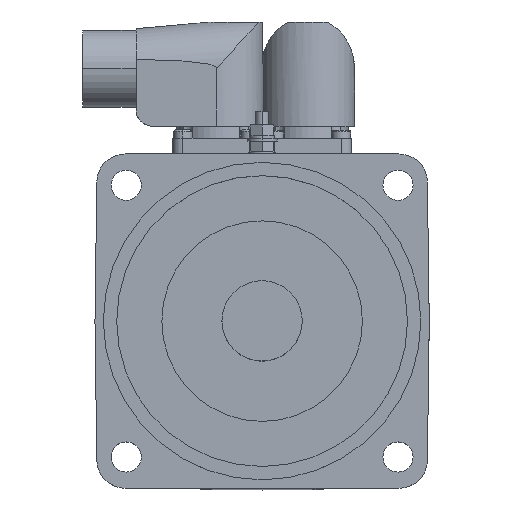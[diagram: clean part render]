
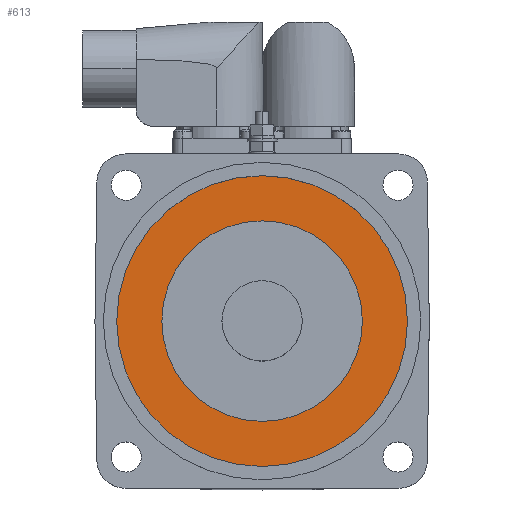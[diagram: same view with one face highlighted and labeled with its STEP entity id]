
A CAD part, top view. The second image highlights one B-rep face of the part: STEP entity #613.
In plain terms, the highlighted planar face has unit normal (0, 0, 1).
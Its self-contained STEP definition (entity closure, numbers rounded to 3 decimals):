
#208 = EDGE_CURVE ( 'NONE', #6195, #6196, #7340, .T. ) ;
#212 = EDGE_CURVE ( 'NONE', #6199, #6200, #7345, .T. ) ;
#370 = EDGE_CURVE ( 'NONE', #6200, #6199, #7593, .T. ) ;
#376 = EDGE_CURVE ( 'NONE', #6196, #6195, #7603, .T. ) ;
#613 = ADVANCED_FACE ( 'NONE', ( #8013, #8008 ), #13729, .T. ) ;
#1377 = AXIS2_PLACEMENT_3D ( 'NONE', #5942, #5943, #5944 ) ;
#1380 = AXIS2_PLACEMENT_3D ( 'NONE', #5931, #5933, #5934 ) ;
#1449 = AXIS2_PLACEMENT_3D ( 'NONE', #13314, #13322, #13323 ) ;
#1453 = AXIS2_PLACEMENT_3D ( 'NONE', #13331, #13338, #13339 ) ;
#1623 = AXIS2_PLACEMENT_3D ( 'NONE', #13721, #13730, #13731 ) ;
#2665 = EDGE_LOOP ( 'NONE', ( #2869, #2870 ) ) ;
#2670 = EDGE_LOOP ( 'NONE', ( #2871, #2872 ) ) ;
#2869 = ORIENTED_EDGE ( 'NONE', *, *, #376, .T. ) ;
#2870 = ORIENTED_EDGE ( 'NONE', *, *, #208, .T. ) ;
#2871 = ORIENTED_EDGE ( 'NONE', *, *, #212, .F. ) ;
#2872 = ORIENTED_EDGE ( 'NONE', *, *, #370, .F. ) ;
#5931 = CARTESIAN_POINT ( 'NONE',  ( 0., 0., 8. ) ) ;
#5933 = DIRECTION ( 'NONE',  ( 0., 0., 1. ) ) ;
#5934 = DIRECTION ( 'NONE',  ( 1., 0., 0. ) ) ;
#5942 = CARTESIAN_POINT ( 'NONE',  ( 0., 0., 8. ) ) ;
#5943 = DIRECTION ( 'NONE',  ( 0., 0., 1. ) ) ;
#5944 = DIRECTION ( 'NONE',  ( 1., 0., 0. ) ) ;
#6195 = VERTEX_POINT ( 'NONE', #10561 ) ;
#6196 = VERTEX_POINT ( 'NONE', #10562 ) ;
#6199 = VERTEX_POINT ( 'NONE', #10565 ) ;
#6200 = VERTEX_POINT ( 'NONE', #10566 ) ;
#7340 = CIRCLE ( 'NONE', #1380, 43.5 ) ;
#7345 = CIRCLE ( 'NONE', #1377, 30. ) ;
#7593 = CIRCLE ( 'NONE', #1449, 30. ) ;
#7603 = CIRCLE ( 'NONE', #1453, 43.5 ) ;
#8008 = FACE_BOUND ( 'NONE', #2670, .T. ) ;
#8013 = FACE_OUTER_BOUND ( 'NONE', #2665, .T. ) ;
#10561 = CARTESIAN_POINT ( 'NONE',  ( -43.5, 0., 8. ) ) ;
#10562 = CARTESIAN_POINT ( 'NONE',  ( 43.5, 0., 8. ) ) ;
#10565 = CARTESIAN_POINT ( 'NONE',  ( 30., 0., 8. ) ) ;
#10566 = CARTESIAN_POINT ( 'NONE',  ( -30., 0., 8. ) ) ;
#13314 = CARTESIAN_POINT ( 'NONE',  ( 0., 0., 8. ) ) ;
#13322 = DIRECTION ( 'NONE',  ( 0., 0., 1. ) ) ;
#13323 = DIRECTION ( 'NONE',  ( 1., 0., 0. ) ) ;
#13331 = CARTESIAN_POINT ( 'NONE',  ( 0., 0., 8. ) ) ;
#13338 = DIRECTION ( 'NONE',  ( 0., 0., 1. ) ) ;
#13339 = DIRECTION ( 'NONE',  ( 1., 0., 0. ) ) ;
#13721 = CARTESIAN_POINT ( 'NONE',  ( 0., 43.5, 8. ) ) ;
#13729 = PLANE ( 'NONE',  #1623 ) ;
#13730 = DIRECTION ( 'NONE',  ( 0., 0., 1. ) ) ;
#13731 = DIRECTION ( 'NONE',  ( 1., 0., 0. ) ) ;
